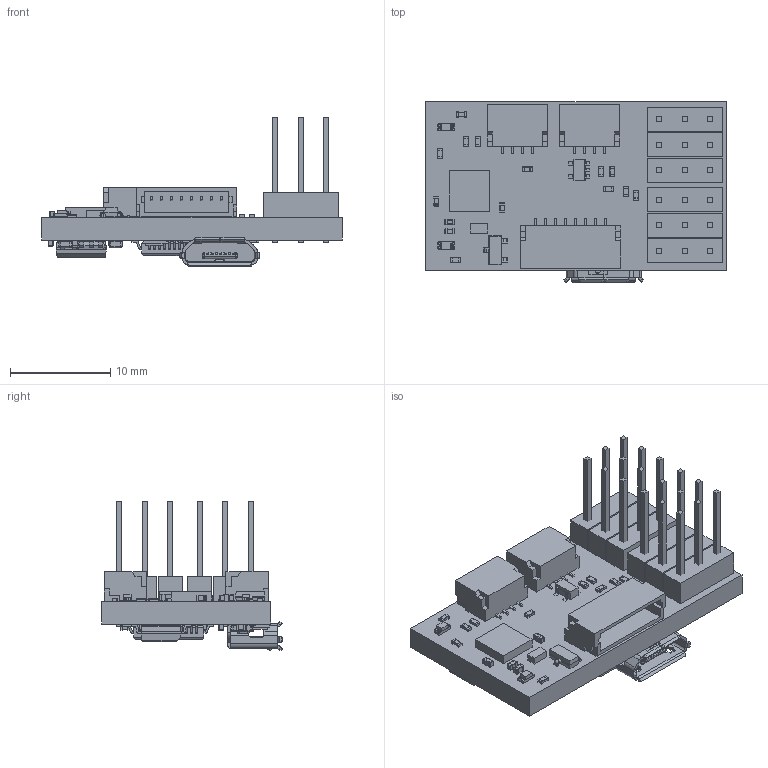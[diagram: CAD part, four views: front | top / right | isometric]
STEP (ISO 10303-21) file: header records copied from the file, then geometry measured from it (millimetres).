
FILE_DESCRIPTION(('Open CASCADE Model'),'2;1');
FILE_NAME('Open CASCADE Shape Model','2014-05-05T15:31:50',('Author'),( 'Open CASCADE'),'Open CASCADE STEP processor 6.2','Open CASCADE 6.2' ,'Unknown');
FILE_SCHEMA(('AUTOMOTIVE_DESIGN { 1 0 10303 214 1 1 1 1 }'));
Length unit declared in the file: millimetre
Products named in the file (76): PCB; Board; R5; res0402; L1; 665377952; Extruded; JP6; 647171056; 665377440; JP5; JP4; JP3; JP2; JP1; C14; 0402HD; User_Library-V0402HD_Anschl_X_FCsse_1; User_Library-V0402HD_K_X_F6rper_1; C10; X1; 665377696; 665377824; U9; SOIC-8; User_Library-SOIC-8_SOIC-8_Body_1; User_Library-SOIC-8_SOIC-8_Pins_1; U6; User_Library-SOT-323-5L; U1; LQFP48; U4; 665377568; U2; SOT23-5; R17; R16; R2; R9; R1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
Assembly tree (122 placements, depth 4):
  PCB
    Board
    R5
      res0402
    L1
      665377952
        Extruded
    JP6
      647171056  x3
        Extruded
      665377440
        Extruded
    JP5
      647171056  x3
        Extruded
      665377440
        Extruded
    JP4
      647171056  x3
        Extruded
      665377440
        Extruded
    JP3
      647171056  x3
        Extruded
      665377440
        Extruded
    JP2
      647171056  x3
        Extruded
      665377440
        Extruded
    JP1
      647171056  x3
        Extruded
      665377440
        Extruded
    C14
      0402HD
        User_Library-V0402HD_Anschl_X_FCsse_1
        User_Library-V0402HD_K_X_F6rper_1
    C10
      0402HD
        User_Library-V0402HD_Anschl_X_FCsse_1
        User_Library-V0402HD_K_X_F6rper_1
    X1
      665377696
        Extruded
      665377824
        Extruded
    U9
      SOIC-8
        User_Library-SOIC-8_SOIC-8_Body_1
        User_Library-SOIC-8_SOIC-8_Pins_1
    U6
      User_Library-SOT-323-5L
    U1
      LQFP48
    U4
      665377568
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Bounding box: 30 x 18.02 x 14.98 mm (x, y, z)
Volume: 1797.6 mm3; surface area: 3676.4 mm2
Topology: 86 solids, 86 shells, 3270 faces, 8301 edges, 5186 vertices
Faces by surface type: plane 2245, cylinder 737, bspline 272, sphere 16
Full cylindrical faces by diameter (mm): 1.016 x18
Entity records: 146594 total; most frequent: CARTESIAN_POINT 37355, DIRECTION 16992, LINE 11229, VECTOR 11229, ORIENTED_EDGE 9870, PCURVE 9870, DEFINITIONAL_REPRESENTATION 9870, EDGE_CURVE 4935
